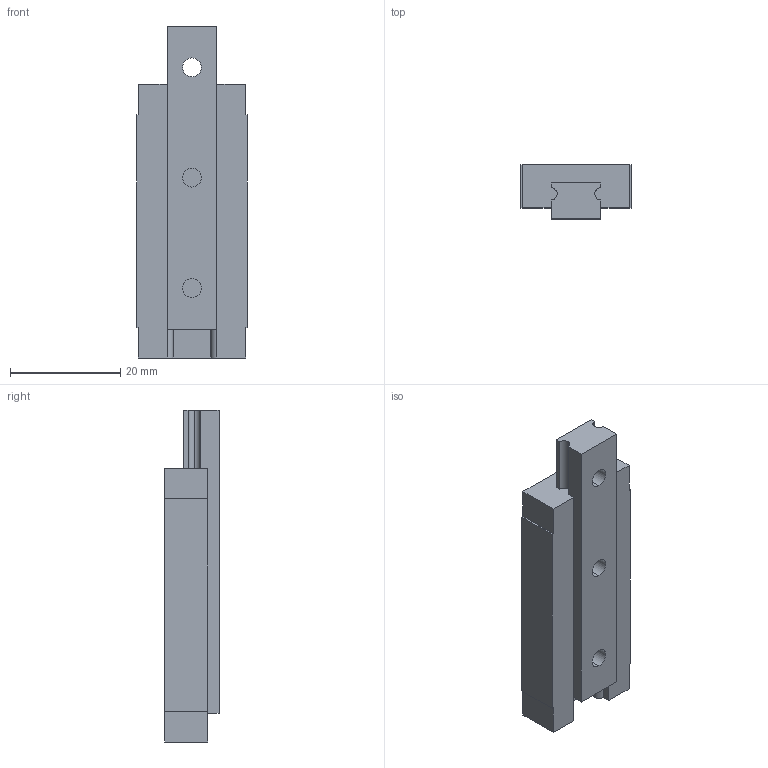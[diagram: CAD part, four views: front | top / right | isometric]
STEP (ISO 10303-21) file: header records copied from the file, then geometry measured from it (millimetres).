
FILE_DESCRIPTION (( 'STEP AP203' ), '1' );
FILE_NAME ('MCM 9LL.STEP', '2020-08-14T05:04:34', ( '' ), ( '' ), 'SwSTEP 2.0', 'SolidWorks 2014', '' );
FILE_SCHEMA (( 'CONFIG_CONTROL_DESIGN' ));
Length unit declared in the file: inch
Products named in the file (3): MCM TABLE 9 - 55; MCM 9LL; mcm9 LL
Assembly tree (2 placements, depth 2):
  MCM 9LL
    MCM TABLE 9 - 55
    mcm9 LL
Bounding box: 20 x 9.81 x 60.18 mm (x, y, z)
Volume: 8319.5 mm3; surface area: 5945.1 mm2
Topology: 2 solids, 2 shells, 73 faces, 186 edges, 114 vertices
Faces by surface type: plane 31, cylinder 30, cone 12
Entity records: 2443 total; most frequent: DIRECTION 390, CARTESIAN_POINT 366, ORIENTED_EDGE 348, EDGE_CURVE 174, AXIS2_PLACEMENT_3D 138, VERTEX_POINT 114, LINE 114, VECTOR 114
